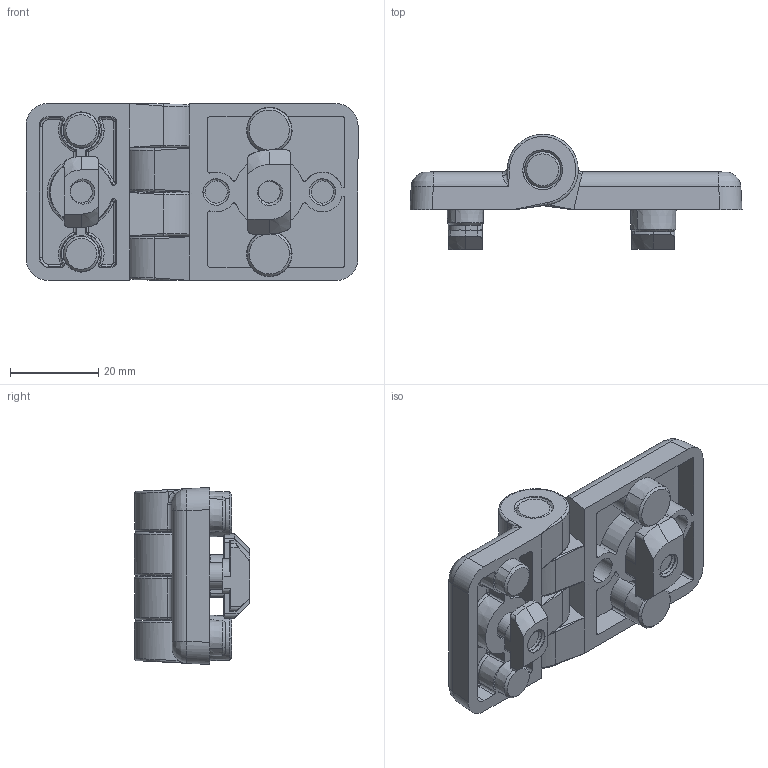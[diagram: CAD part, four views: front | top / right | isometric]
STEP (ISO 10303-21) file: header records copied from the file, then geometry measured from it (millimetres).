
FILE_DESCRIPTION (( 'STEP AP203' ), '1' );
FILE_NAME ('402070_Scharnier PA 30x45 mit Bef.-Satz (2 Bohrungen).step', '2022-05-18T13:39:02', ( '' ), ( '' ), 'SwSTEP 2.0', 'SolidWorks 2021', '' );
FILE_SCHEMA (( 'CONFIG_CONTROL_DESIGN' ));
Length unit declared in the file: millimetre
Products named in the file (10): 402065 Scharnierflügel 45; 402065 Scharnierflügel 30; 99900770 Scharnier PA 30x45 (2 Bohrungen); 402070_Scharnier PA 30x45 mit Bef.-Satz (2 Bohrungen); 402065 Zentrierbolzen 8; 402065 Achse; 341030 Hammermutter Nut 8 M6; 342030 Hammermutter Nut 10 M6; DIN 7991 - M6 x 16 --- 16C_DIN 7991 - M6 x 16 --- 16C; 402065 Zentrierblozen 10
Assembly tree (12 placements, depth 3):
  402070_Scharnier PA 30x45 mit Bef.-Satz (2 Bohrungen)
    99900770 Scharnier PA 30x45 (2 Bohrungen)
      402065 Scharnierflügel 45
      402065 Achse
      402065 Zentrierblozen 10  x2
      402065 Zentrierbolzen 8  x2
      402065 Scharnierflügel 30
    DIN 7991 - M6 x 16 --- 16C_DIN 7991 - M6 x 16 --- 16C  x2
    341030 Hammermutter Nut 8 M6
    342030 Hammermutter Nut 10 M6
Bounding box: 75.05 x 26 x 40 mm (x, y, z)
Volume: 25284.1 mm3; surface area: 17810.2 mm2
Topology: 11 solids, 11 shells, 652 faces, 1704 edges, 1084 vertices
Faces by surface type: cylinder 274, plane 175, bspline 82, cone 79, torus 30, sphere 12
Entity records: 27873 total; most frequent: CARTESIAN_POINT 14508, ORIENTED_EDGE 2820, DIRECTION 2252, EDGE_CURVE 1410, VERTEX_POINT 905, AXIS2_PLACEMENT_3D 852, EDGE_LOOP 571, VECTOR 548
